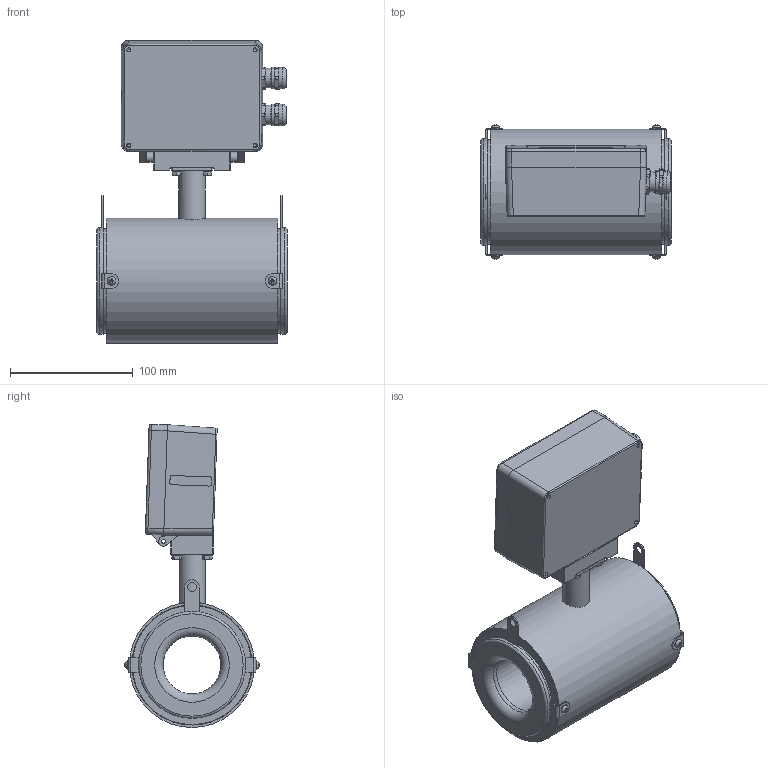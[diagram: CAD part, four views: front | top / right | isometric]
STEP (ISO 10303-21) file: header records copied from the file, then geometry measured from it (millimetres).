
FILE_DESCRIPTION(('STEP AP203'), '1');
FILE_NAME('Âçëåò ÝÌ ÏÐÎÔÈ DN50 Ñýíäâè÷', '', ('UNSPECIFIED'), ('UNSPECIFIED'), 'C3D Converter', 'C3D Toolkit', '');
FILE_SCHEMA(('CONFIG_CONTROL_DESIGN'));
Length unit declared in the file: millimetre
Products named in the file (1): ШКСД.407212.004-002-05
Bounding box: 155 x 109.3 x 246.97 mm (x, y, z)
Surface area: 284906.7 mm2 (no closed solid volume)
Topology: 0 solids, 9 shells, 925 faces, 2215 edges, 1385 vertices
Faces by surface type: plane 456, cylinder 269, cone 90, bspline 68, torus 38, sphere 4
Full cylindrical faces by diameter (mm): 3.242 x18, 3.422 x2, 4 x10, 4.134 x1, 4.5 x10, 4.917 x2, 5 x4, 6 x4, 6.2 x2, 7 x6, 7.5 x4, 8.7 x2, 12 x4, 15 x4, 16 x8, 16.3 x2, 17.5 x4, 19 x1, 20.2 x1, 22 x1, 26 x2, 47 x1, 54 x2, 56 x2, 59 x1, 60 x3, 85 x2, 87 x2, 95 x2, 96 x1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
Entity records: 50684 total; most frequent: CARTESIAN_POINT 23072, DIRECTION 4023, ORIENTED_EDGE 3960, EDGE_CURVE 1986, AXIS2_PLACEMENT_3D 1547, VERTEX_POINT 1366, EDGE_LOOP 1258, FACE_BOUND 941
